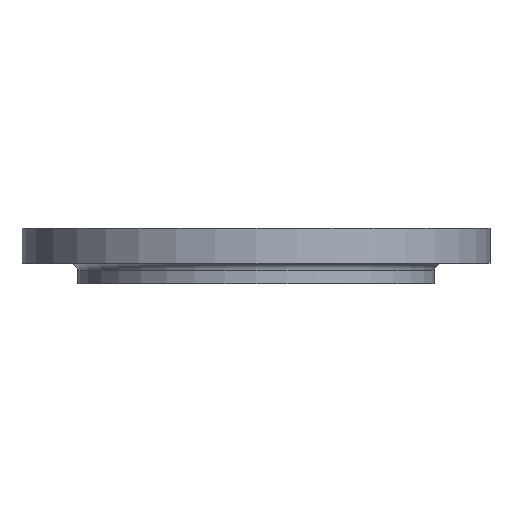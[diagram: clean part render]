
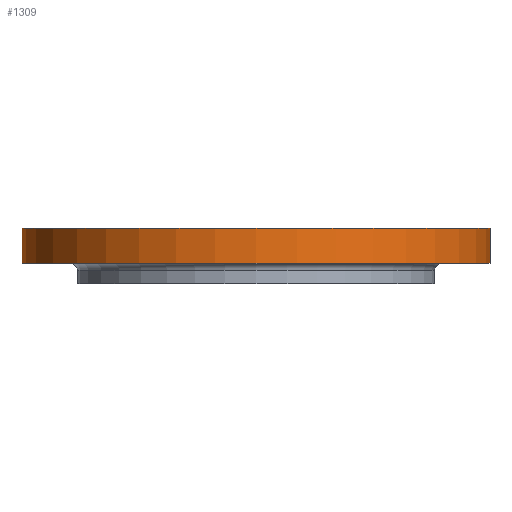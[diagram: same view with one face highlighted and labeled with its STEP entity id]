
A CAD part, front view. The second image highlights one B-rep face of the part: STEP entity #1309.
In plain terms, the highlighted cylindrical face has radius 377.5 mm (diameter 755 mm), a partial arc.
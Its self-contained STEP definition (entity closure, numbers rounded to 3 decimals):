
#20 = CARTESIAN_POINT ( 'NONE',  ( 0., 0., -150. ) ) ;
#167 = DIRECTION ( 'NONE',  ( 0., 0., 1. ) ) ;
#180 = DIRECTION ( 'NONE',  ( 0., 0., 1. ) ) ;
#302 = CARTESIAN_POINT ( 'NONE',  ( 377.5, 0., -57. ) ) ;
#356 = CARTESIAN_POINT ( 'NONE',  ( -377.5, 0., -150. ) ) ;
#367 = AXIS2_PLACEMENT_3D ( 'NONE', #20, #583, #1165 ) ;
#398 = EDGE_LOOP ( 'NONE', ( #1086, #961, #1811, #1432 ) ) ;
#401 = VERTEX_POINT ( 'NONE', #302 ) ;
#448 = CARTESIAN_POINT ( 'NONE',  ( 0., 0., -57. ) ) ;
#455 = VERTEX_POINT ( 'NONE', #1039 ) ;
#515 = CARTESIAN_POINT ( 'NONE',  ( -377.5, 0., 0. ) ) ;
#544 = EDGE_CURVE ( 'NONE', #877, #661, #1623, .T. ) ;
#583 = DIRECTION ( 'NONE',  ( 0., 0., 1. ) ) ;
#643 = VECTOR ( 'NONE', #937, 1000. ) ;
#661 = VERTEX_POINT ( 'NONE', #515 ) ;
#725 = FACE_OUTER_BOUND ( 'NONE', #398, .T. ) ;
#727 = DIRECTION ( 'NONE',  ( 1., 0., 0. ) ) ;
#875 = EDGE_CURVE ( 'NONE', #661, #455, #1497, .T. ) ;
#877 = VERTEX_POINT ( 'NONE', #1303 ) ;
#885 = LINE ( 'NONE', #1446, #964 ) ;
#915 = EDGE_CURVE ( 'NONE', #877, #401, #1616, .T. ) ;
#937 = DIRECTION ( 'NONE',  ( 0., 0., 1. ) ) ;
#961 = ORIENTED_EDGE ( 'NONE', *, *, #915, .T. ) ;
#964 = VECTOR ( 'NONE', #180, 1000. ) ;
#1037 = DIRECTION ( 'NONE',  ( 0., 0., 1. ) ) ;
#1039 = CARTESIAN_POINT ( 'NONE',  ( 377.5, 0., 0. ) ) ;
#1086 = ORIENTED_EDGE ( 'NONE', *, *, #544, .F. ) ;
#1165 = DIRECTION ( 'NONE',  ( 1., 0., 0. ) ) ;
#1301 = CYLINDRICAL_SURFACE ( 'NONE', #367, 377.5 ) ;
#1303 = CARTESIAN_POINT ( 'NONE',  ( -377.5, 0., -57. ) ) ;
#1309 = ADVANCED_FACE ( 'NONE', ( #725 ), #1301, .T. ) ;
#1432 = ORIENTED_EDGE ( 'NONE', *, *, #875, .F. ) ;
#1434 = CARTESIAN_POINT ( 'NONE',  ( 0., 0., 0. ) ) ;
#1446 = CARTESIAN_POINT ( 'NONE',  ( 377.5, 0., -150. ) ) ;
#1497 = CIRCLE ( 'NONE', #1500, 377.5 ) ;
#1500 = AXIS2_PLACEMENT_3D ( 'NONE', #1434, #167, #727 ) ;
#1580 = DIRECTION ( 'NONE',  ( 1., 0., 0. ) ) ;
#1616 = CIRCLE ( 'NONE', #1620, 377.5 ) ;
#1620 = AXIS2_PLACEMENT_3D ( 'NONE', #448, #1037, #1580 ) ;
#1623 = LINE ( 'NONE', #356, #643 ) ;
#1729 = EDGE_CURVE ( 'NONE', #401, #455, #885, .T. ) ;
#1811 = ORIENTED_EDGE ( 'NONE', *, *, #1729, .T. ) ;
